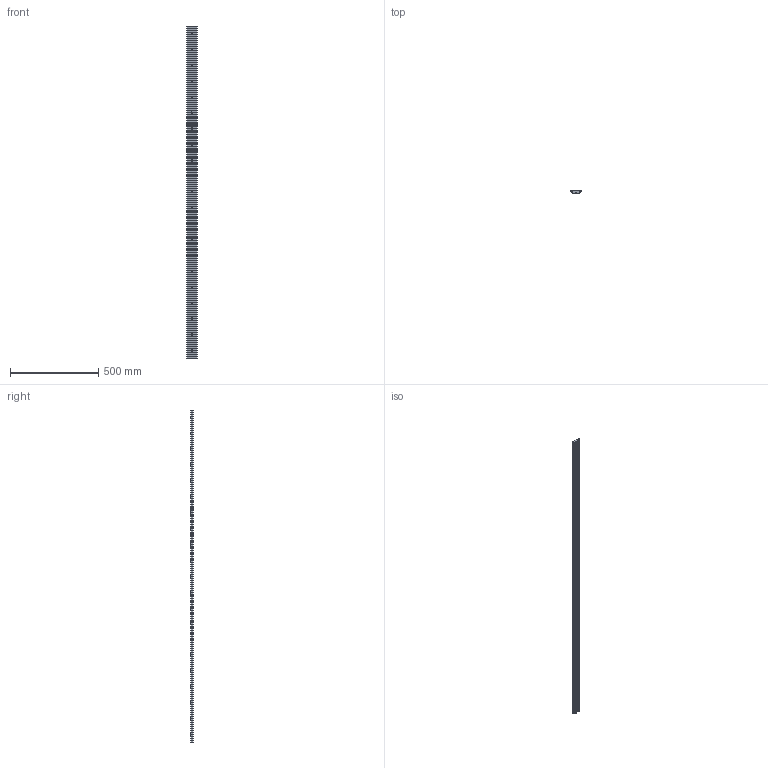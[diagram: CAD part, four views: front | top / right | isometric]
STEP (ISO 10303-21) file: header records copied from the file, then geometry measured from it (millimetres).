
FILE_DESCRIPTION(('STEP AP203'),'1');
FILE_NAME('slide_nm60l1886p2.stp','2022-07-01T04:41:24',('TraceParts'),('TraceParts S.A.'),'Spatial InterOp 3D',' ',' ');
FILE_SCHEMA(('CONFIG_CONTROL_DESIGN'));
Length unit declared in the file: millimetre
Products named in the file (1): 1
Bounding box: 59.61 x 15.91 x 1886 mm (x, y, z)
Volume: 1232878.5 mm3; surface area: 300031.8 mm2
Topology: 1 solids, 1 shells, 145 faces, 366 edges, 244 vertices
Faces by surface type: cylinder 98, plane 47
Entity records: 4584 total; most frequent: DIRECTION 854, CARTESIAN_POINT 756, ORIENTED_EDGE 732, EDGE_CURVE 366, AXIS2_PLACEMENT_3D 342, VERTEX_POINT 244, EDGE_LOOP 208, CIRCLE 196
